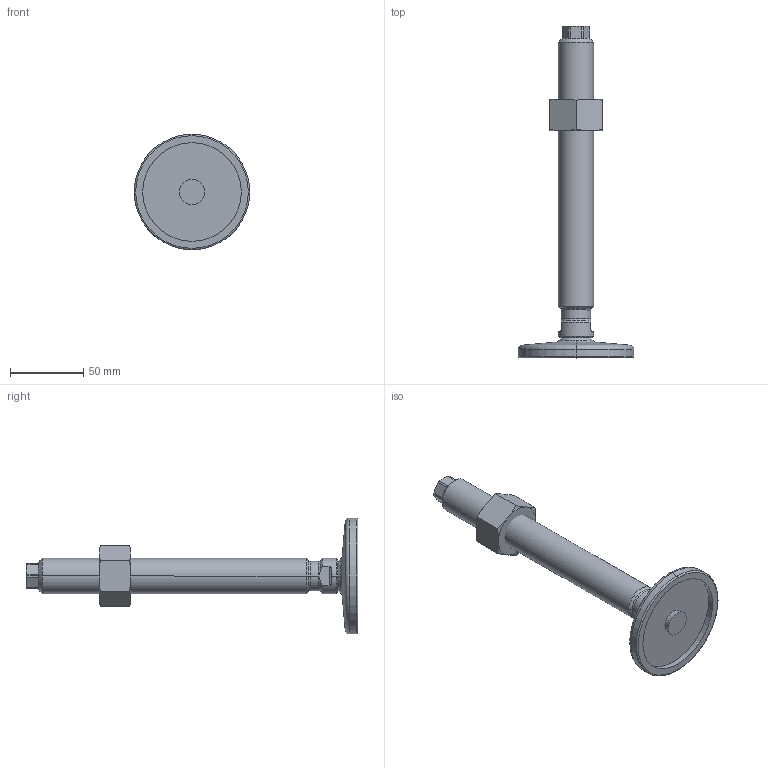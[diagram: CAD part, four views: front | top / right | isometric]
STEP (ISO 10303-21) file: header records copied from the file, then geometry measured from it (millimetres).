
FILE_DESCRIPTION (( 'STEP AP214' ), '1' );
FILE_NAME ('21-80-M24-200-D0-VK.step', '2020-10-02T17:36:11', ( '' ), ( '' ), 'SwSTEP 2.0', 'SolidWorks 2019', '' );
FILE_SCHEMA (( 'AUTOMOTIVE_DESIGN' ));
Length unit declared in the file: millimetre
Products named in the file (4): WB4032^WB21_V_M24; 21-80-M24-200-D0-VK; WB21_Fußteller 21^WB21_V_D0-080-R14-B9 (M24); WB21_Spindel_V^WB21_V_M24-200
Assembly tree (3 placements, depth 2):
  21-80-M24-200-D0-VK
    WB21_Fußteller 21^WB21_V_D0-080-R14-B9 (M24)
    WB21_Spindel_V^WB21_V_M24-200
    WB4032^WB21_V_M24
Bounding box: 79 x 226.9 x 79 mm (x, y, z)
Volume: 141891.6 mm3; surface area: 35450.5 mm2
Topology: 3 solids, 3 shells, 101 faces, 225 edges, 133 vertices
Faces by surface type: cone 33, plane 29, cylinder 25, torus 10, sphere 4
Entity records: 3176 total; most frequent: CARTESIAN_POINT 749, DIRECTION 492, ORIENTED_EDGE 450, EDGE_CURVE 225, AXIS2_PLACEMENT_3D 212, VERTEX_POINT 133, EDGE_LOOP 106, CIRCLE 105
